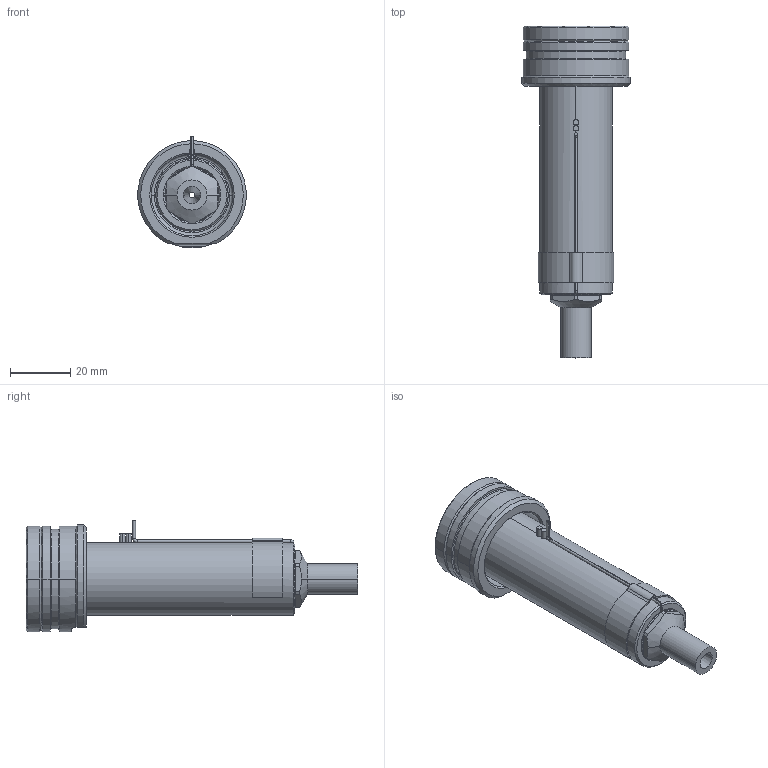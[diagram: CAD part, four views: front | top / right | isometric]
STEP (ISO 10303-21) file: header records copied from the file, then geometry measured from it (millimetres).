
FILE_DESCRIPTION((''),'2;1');
FILE_NAME('EO06_SG_ESG_080_SW','2024-02-19T12:17:57',('sundharh'),(''),'CREO PARAMETRIC BY PTC INC, 2023154','CREO PARAMETRIC BY PTC INC, 2023154','');
FILE_SCHEMA(('CONFIG_CONTROL_DESIGN'));
Length unit declared in the file: millimetre
Products named in the file (1): EO06_SG_ESG_080_SW
Bounding box: 35.93 x 110 x 37 mm (x, y, z)
Volume: 47992.7 mm3; surface area: 14929.1 mm2
Topology: 2 solids, 2 shells, 169 faces, 429 edges, 260 vertices
Faces by surface type: cylinder 68, plane 41, cone 30, torus 21, bspline 6, sphere 3
Entity records: 5737 total; most frequent: CARTESIAN_POINT 1610, DIRECTION 908, ORIENTED_EDGE 842, EDGE_CURVE 421, AXIS2_PLACEMENT_3D 379, VERTEX_POINT 260, CIRCLE 216, EDGE_LOOP 183
